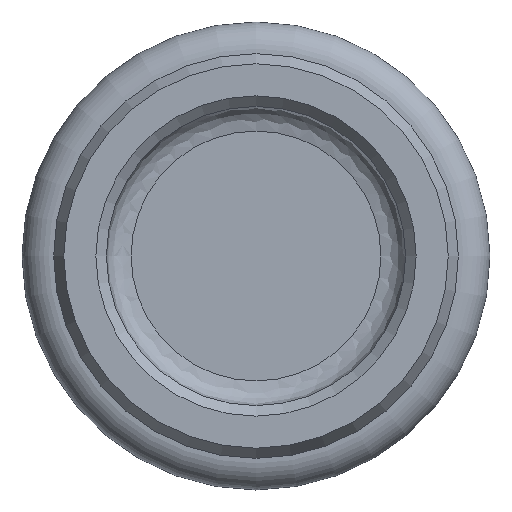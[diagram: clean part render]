
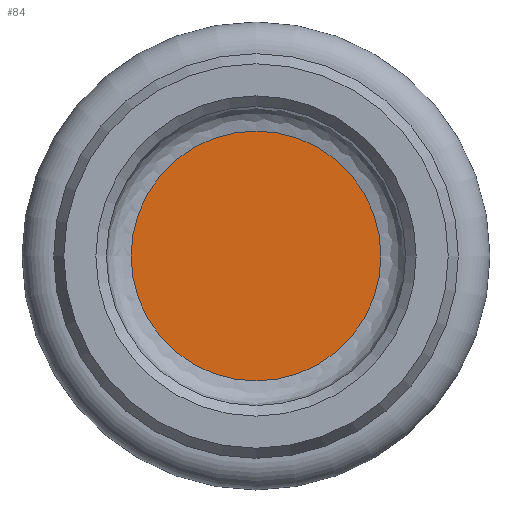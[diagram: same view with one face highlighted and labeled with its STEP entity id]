
A CAD part, front view. The second image highlights one B-rep face of the part: STEP entity #84.
In plain terms, the highlighted planar face has unit normal (0, -1, 0).
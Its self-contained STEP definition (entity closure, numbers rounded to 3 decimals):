
#68=CARTESIAN_POINT('',(-1.775,-0.7,0.0));
#69=DIRECTION('',(0.0,-1.0,0.0));
#70=DIRECTION('',(0.0,0.0,-1.0));
#71=AXIS2_PLACEMENT_3D('',#68,#69,#70);
#72=PLANE('',#71);
#73=CARTESIAN_POINT('',(-3.55,-0.7,0.0));
#74=VERTEX_POINT('',#73);
#75=CARTESIAN_POINT('',(0.0,-0.7,0.0));
#76=DIRECTION('',(0.0,1.0,0.0));
#77=DIRECTION('',(-1.0,0.0,0.0));
#78=AXIS2_PLACEMENT_3D('',#75,#76,#77);
#79=CIRCLE('',#78,3.55);
#80=EDGE_CURVE('',#74,#74,#79,.T.);
#81=ORIENTED_EDGE('',*,*,#80,.F.);
#82=EDGE_LOOP('',(#81));
#83=FACE_OUTER_BOUND('',#82,.T.);
#84=ADVANCED_FACE('',(#83),#72,.T.);
